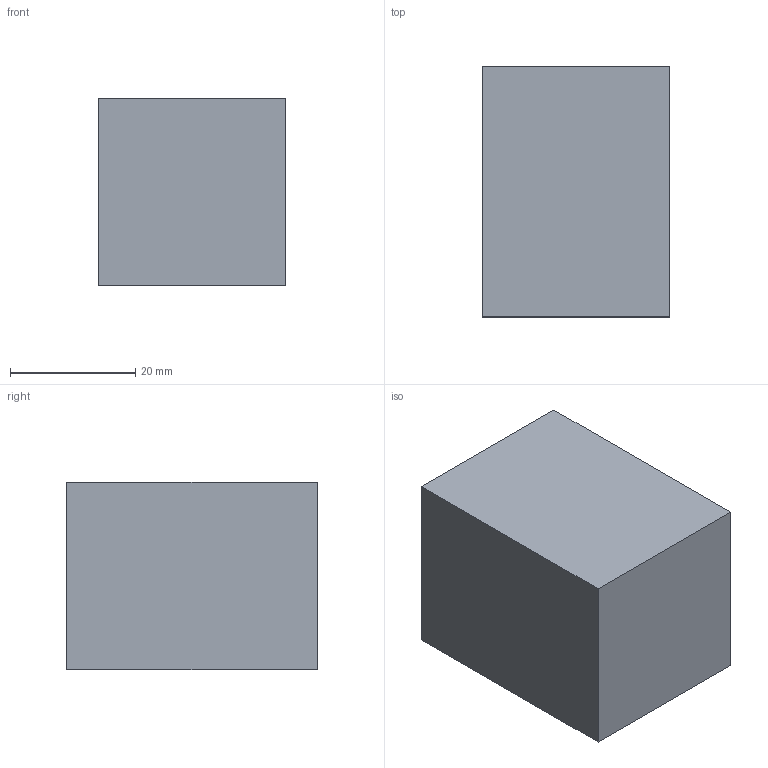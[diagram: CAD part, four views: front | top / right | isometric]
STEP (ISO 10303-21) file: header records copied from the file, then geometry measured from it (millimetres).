
FILE_DESCRIPTION (( 'STEP AP214' ), '1' );
FILE_NAME ('2_13_1066_Senkung_PU06-3.STEP', '2026-02-03T06:35:01', ( '' ), ( '' ), 'SwSTEP 2.0', 'SolidWorks 2024', '' );
FILE_SCHEMA (( 'AUTOMOTIVE_DESIGN' ));
Length unit declared in the file: millimetre
Products named in the file (1): 2_13_1066_Senkung_PU06-3
Bounding box: 30 x 40 x 30 mm (x, y, z)
Volume: 31675.1 mm3; surface area: 7870.2 mm2
Topology: 1 solids, 1 shells, 31 faces, 66 edges, 37 vertices
Faces by surface type: cone 12, cylinder 10, plane 7, torus 2
Entity records: 835 total; most frequent: DIRECTION 158, CARTESIAN_POINT 133, ORIENTED_EDGE 128, EDGE_CURVE 64, AXIS2_PLACEMENT_3D 62, VERTEX_POINT 37, LINE 34, VECTOR 34
